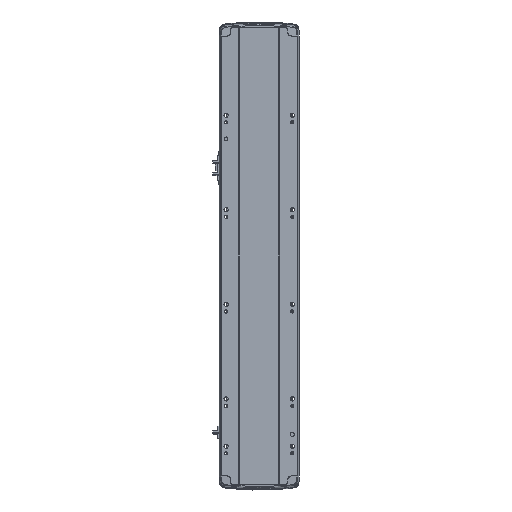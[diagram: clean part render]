
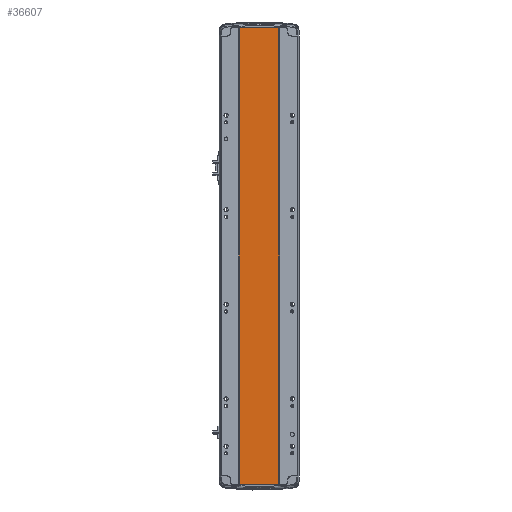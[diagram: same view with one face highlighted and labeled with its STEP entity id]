
A CAD part, front view. The second image highlights one B-rep face of the part: STEP entity #36607.
In plain terms, the highlighted planar face has unit normal (0, -1, 0).
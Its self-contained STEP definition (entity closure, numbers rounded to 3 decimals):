
#543 = VECTOR ( 'NONE', #11368, 1000. ) ;
#973 = CARTESIAN_POINT ( 'NONE',  ( 41.793, 0.998, 964.5 ) ) ;
#1949 = LINE ( 'NONE', #18508, #35363 ) ;
#2202 = ORIENTED_EDGE ( 'NONE', *, *, #9104, .F. ) ;
#4981 = CARTESIAN_POINT ( 'NONE',  ( 0., 0.999, 0. ) ) ;
#5121 = DIRECTION ( 'NONE',  ( 0., 1., 0. ) ) ;
#6749 = ORIENTED_EDGE ( 'NONE', *, *, #24383, .T. ) ;
#7852 = EDGE_LOOP ( 'NONE', ( #31546, #27859, #2202, #6749 ) ) ;
#8672 = DIRECTION ( 'NONE',  ( -1., 0., 0. ) ) ;
#9104 = EDGE_CURVE ( 'NONE', #11360, #33181, #1949, .T. ) ;
#9224 = VERTEX_POINT ( 'NONE', #27920 ) ;
#9303 = FACE_OUTER_BOUND ( 'NONE', #7852, .T. ) ;
#9692 = DIRECTION ( 'NONE',  ( 1., 0., 0. ) ) ;
#11360 = VERTEX_POINT ( 'NONE', #32934 ) ;
#11368 = DIRECTION ( 'NONE',  ( 0., 0., -1. ) ) ;
#11704 = CARTESIAN_POINT ( 'NONE',  ( 0., 0.999, 964.5 ) ) ;
#12752 = CARTESIAN_POINT ( 'NONE',  ( -41.791, 1., 964.5 ) ) ;
#13087 = VECTOR ( 'NONE', #13289, 1000. ) ;
#13275 = VERTEX_POINT ( 'NONE', #18076 ) ;
#13289 = DIRECTION ( 'NONE',  ( 0., 0., -1. ) ) ;
#17751 = PLANE ( 'NONE',  #28560 ) ;
#18076 = CARTESIAN_POINT ( 'NONE',  ( -41.791, 1., 0. ) ) ;
#18508 = CARTESIAN_POINT ( 'NONE',  ( 0., 0.999, 964.5 ) ) ;
#20605 = CARTESIAN_POINT ( 'NONE',  ( 41.793, 0.998, 964.5 ) ) ;
#21723 = EDGE_CURVE ( 'NONE', #13275, #9224, #38816, .T. ) ;
#22654 = VECTOR ( 'NONE', #26993, 1000. ) ;
#22665 = LINE ( 'NONE', #20605, #543 ) ;
#24383 = EDGE_CURVE ( 'NONE', #11360, #13275, #36707, .T. ) ;
#26993 = DIRECTION ( 'NONE',  ( 1., 0., 0. ) ) ;
#27859 = ORIENTED_EDGE ( 'NONE', *, *, #35670, .F. ) ;
#27920 = CARTESIAN_POINT ( 'NONE',  ( 41.793, 0.998, 0. ) ) ;
#28560 = AXIS2_PLACEMENT_3D ( 'NONE', #11704, #5121, #8672 ) ;
#31546 = ORIENTED_EDGE ( 'NONE', *, *, #21723, .T. ) ;
#32934 = CARTESIAN_POINT ( 'NONE',  ( -41.791, 1., 964.5 ) ) ;
#33181 = VERTEX_POINT ( 'NONE', #973 ) ;
#35363 = VECTOR ( 'NONE', #9692, 1000. ) ;
#35670 = EDGE_CURVE ( 'NONE', #33181, #9224, #22665, .T. ) ;
#36607 = ADVANCED_FACE ( 'NONE', ( #9303 ), #17751, .F. ) ;
#36707 = LINE ( 'NONE', #12752, #13087 ) ;
#38816 = LINE ( 'NONE', #4981, #22654 ) ;
